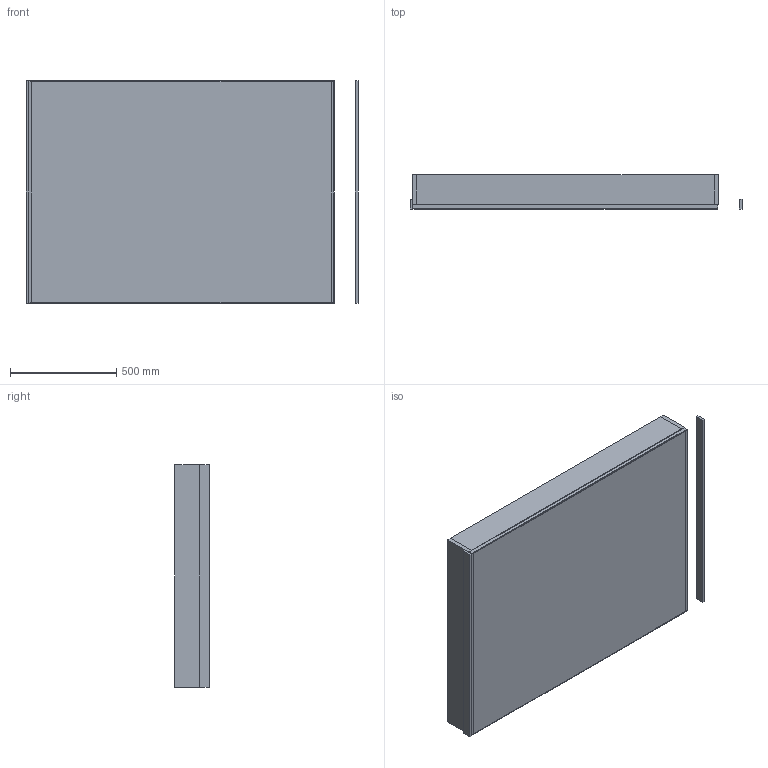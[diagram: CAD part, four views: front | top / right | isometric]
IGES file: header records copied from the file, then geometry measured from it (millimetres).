
Start section: Data from Parasolid IGES Translator 19.0.9, Copyright(c) 2006 Siemens PL M Software. All Rights Reserved.
Global section: file name: noorth-mirror-H 105 D 4,5-16 W 144_9162.igs; native system: By Siemens PLM Incorporated; preprocessor: XPlus GENERIC/IGES 19.0.9; author: Noname; organization: Noname; date: 20200519.114522; units: metre
Bounding box: 1563.82 x 162 x 1050 mm (x, y, z)
Volume: 48136281 mm3; surface area: 10887831.1 mm2
Topology: 10 solids, 10 shells, 84 faces, 168 edges, 104 vertices
Faces by surface type: plane 84
